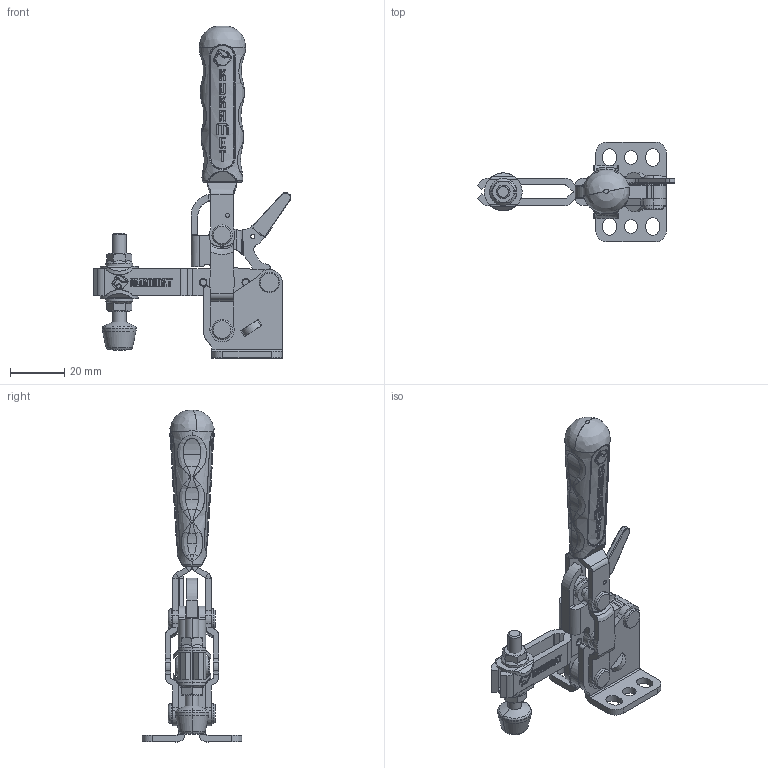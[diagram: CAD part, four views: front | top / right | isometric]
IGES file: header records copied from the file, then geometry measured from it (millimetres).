
Start section: 3D InterOp IGES (v. 2020 1.0.1), Spatial Corp. Copyright (c) 1999-2017.
Global section: file name: 211-1-l.igs; native system: Spatial Corp.; preprocessor: 3D InterOp ACIS/IGES; author: TraceParts; organization: TraceParts S.A.; date: 20240522.060208; units: millimetre
Bounding box: 73.2 x 37 x 122.87 mm (x, y, z)
Surface area: 21130.9 mm2 (no closed solid volume)
Topology: 0 solids, 0 shells, 2007 faces, 14226 edges, 14141 vertices
Faces by surface type: revolution 1085, extrusion 538, bspline 384
